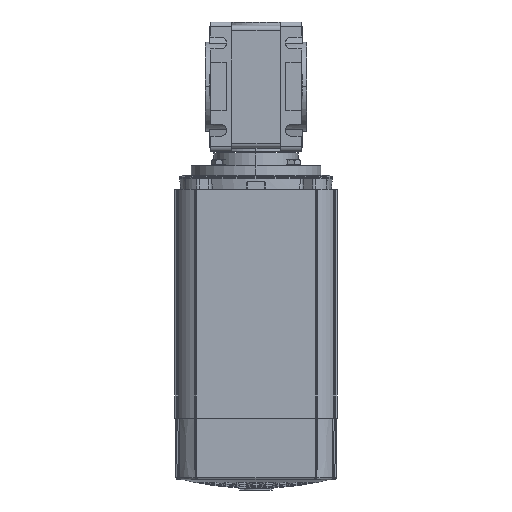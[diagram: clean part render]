
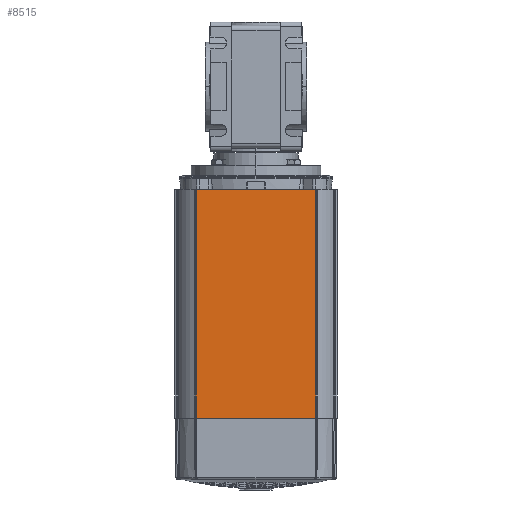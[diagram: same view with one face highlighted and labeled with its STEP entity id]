
A CAD part, front view. The second image highlights one B-rep face of the part: STEP entity #8515.
In plain terms, the highlighted planar face has unit normal (0, -1, 0).
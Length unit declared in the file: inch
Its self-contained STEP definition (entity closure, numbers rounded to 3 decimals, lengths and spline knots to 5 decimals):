
#3793 = CARTESIAN_POINT ( 'NONE',  ( -1.4525, -1.977, -1.33918 ) ) ;
#3810 = DIRECTION ( 'NONE',  ( -1., 0., 0. ) ) ;
#3811 = VECTOR ( 'NONE', #3810, 39.37008 ) ;
#3812 = CARTESIAN_POINT ( 'NONE',  ( 1.977, -1.977, 4.23782 ) ) ;
#3813 = LINE ( 'NONE', #3812, #3811 ) ;
#3814 = CARTESIAN_POINT ( 'NONE',  ( -1.4525, -1.977, 4.23782 ) ) ;
#3832 = DIRECTION ( 'NONE',  ( 1., 0., 0. ) ) ;
#3833 = VECTOR ( 'NONE', #3832, 39.37008 ) ;
#3834 = CARTESIAN_POINT ( 'NONE',  ( -1.4825, -1.977, -1.33918 ) ) ;
#3835 = LINE ( 'NONE', #3834, #3833 ) ;
#3843 = DIRECTION ( 'NONE',  ( 0., 0., -1. ) ) ;
#3844 = VECTOR ( 'NONE', #3843, 39.37008 ) ;
#3845 = CARTESIAN_POINT ( 'NONE',  ( -1.4525, -1.977, 4.31782 ) ) ;
#3850 = LINE ( 'NONE', #3845, #3844 ) ;
#3916 = AXIS2_PLACEMENT_3D ( 'NONE', #3977, #3976, #3974 ) ;
#3917 = PLANE ( 'NONE',  #3916 ) ;
#3918 = FACE_OUTER_BOUND ( 'NONE', #6730, .T. ) ;
#3926 = CARTESIAN_POINT ( 'NONE',  ( 1.4525, -1.977, -1.33918 ) ) ;
#3962 = DIRECTION ( 'NONE',  ( 0., 0., 1. ) ) ;
#3963 = VECTOR ( 'NONE', #3962, 39.37008 ) ;
#3964 = CARTESIAN_POINT ( 'NONE',  ( 1.4525, -1.977, 4.31782 ) ) ;
#3965 = LINE ( 'NONE', #3964, #3963 ) ;
#3974 = DIRECTION ( 'NONE',  ( 0., 0., 1. ) ) ;
#3976 = DIRECTION ( 'NONE',  ( 0., 1., 0. ) ) ;
#3977 = CARTESIAN_POINT ( 'NONE',  ( -1.4825, -1.977, 4.31782 ) ) ;
#4013 = CARTESIAN_POINT ( 'NONE',  ( 1.4525, -1.977, 4.23782 ) ) ;
#6730 = EDGE_LOOP ( 'NONE', ( #8576, #8655, #8187, #8115 ) ) ;
#7942 = VERTEX_POINT ( 'NONE', #3814 ) ;
#7964 = EDGE_CURVE ( 'NONE', #8637, #7942, #3813, .T. ) ;
#8014 = VERTEX_POINT ( 'NONE', #3793 ) ;
#8041 = EDGE_CURVE ( 'NONE', #7942, #8014, #3850, .T. ) ;
#8115 = ORIENTED_EDGE ( 'NONE', *, *, #8126, .T. ) ;
#8126 = EDGE_CURVE ( 'NONE', #8014, #8496, #3835, .T. ) ;
#8187 = ORIENTED_EDGE ( 'NONE', *, *, #8041, .T. ) ;
#8496 = VERTEX_POINT ( 'NONE', #3926 ) ;
#8515 = ADVANCED_FACE ( 'NONE', ( #3918 ), #3917, .F. ) ;
#8576 = ORIENTED_EDGE ( 'NONE', *, *, #8603, .T. ) ;
#8603 = EDGE_CURVE ( 'NONE', #8496, #8637, #3965, .T. ) ;
#8637 = VERTEX_POINT ( 'NONE', #4013 ) ;
#8655 = ORIENTED_EDGE ( 'NONE', *, *, #7964, .T. ) ;
